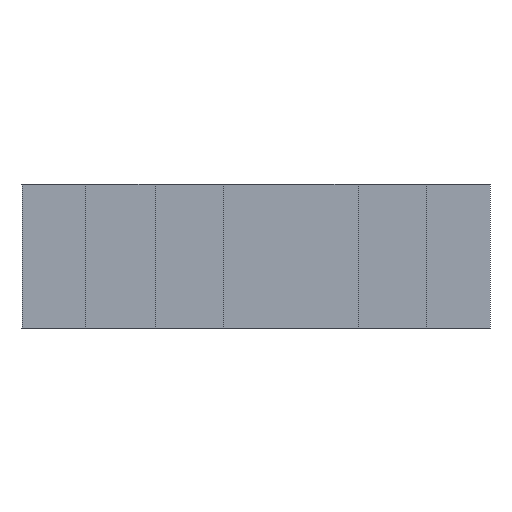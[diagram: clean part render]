
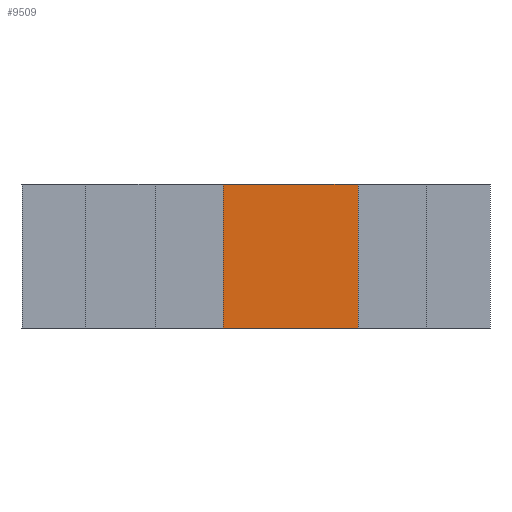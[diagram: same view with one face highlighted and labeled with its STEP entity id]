
A CAD part, left-side view. The second image highlights one B-rep face of the part: STEP entity #9509.
In plain terms, the highlighted planar face has unit normal (-1, 0, 0).
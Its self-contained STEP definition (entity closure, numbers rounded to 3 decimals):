
#9439 = PLANE('',#9440);
#9440 = AXIS2_PLACEMENT_3D('',#9441,#9442,#9443);
#9441 = CARTESIAN_POINT('',(-3790.,3210.,0.));
#9442 = DIRECTION('',(-1.,0.,0.));
#9443 = DIRECTION('',(0.,-1.,0.));
#9454 = VERTEX_POINT('',#9455);
#9455 = CARTESIAN_POINT('',(-3790.,805.,1720.));
#9471 = VERTEX_POINT('',#9472);
#9472 = CARTESIAN_POINT('',(-3790.,805.,0.));
#9486 = EDGE_CURVE('',#9454,#9471,#9487,.T.);
#9487 = SURFACE_CURVE('',#9488,(#9492,#9498),.PCURVE_S1.);
#9488 = LINE('',#9489,#9490);
#9489 = CARTESIAN_POINT('',(-3790.,805.,0.));
#9490 = VECTOR('',#9491,1.);
#9491 = DIRECTION('',(0.,0.,-1.));
#9492 = PCURVE('',#9439,#9493);
#9493 = DEFINITIONAL_REPRESENTATION('',(#9494),#9497);
#9494 = B_SPLINE_CURVE_WITH_KNOTS('',1,(#9495,#9496),.UNSPECIFIED.,.F.,
  .F.,(2,2),(-1892.,172.),.PIECEWISE_BEZIER_KNOTS.);
#9495 = CARTESIAN_POINT('',(2405.,1892.));
#9496 = CARTESIAN_POINT('',(2405.,-172.));
#9497 = ( GEOMETRIC_REPRESENTATION_CONTEXT(2) 
PARAMETRIC_REPRESENTATION_CONTEXT() REPRESENTATION_CONTEXT('2D SPACE',''
  ) );
#9498 = PCURVE('',#9499,#9504);
#9499 = PLANE('',#9500);
#9500 = AXIS2_PLACEMENT_3D('',#9501,#9502,#9503);
#9501 = CARTESIAN_POINT('',(-3790.,3210.,0.));
#9502 = DIRECTION('',(-1.,0.,0.));
#9503 = DIRECTION('',(0.,-1.,0.));
#9504 = DEFINITIONAL_REPRESENTATION('',(#9505),#9508);
#9505 = B_SPLINE_CURVE_WITH_KNOTS('',1,(#9506,#9507),.UNSPECIFIED.,.F.,
  .F.,(2,2),(-1892.,172.),.PIECEWISE_BEZIER_KNOTS.);
#9506 = CARTESIAN_POINT('',(2405.,1892.));
#9507 = CARTESIAN_POINT('',(2405.,-172.));
#9508 = ( GEOMETRIC_REPRESENTATION_CONTEXT(2) 
PARAMETRIC_REPRESENTATION_CONTEXT() REPRESENTATION_CONTEXT('2D SPACE',''
  ) );
#9509 = ADVANCED_FACE('',(#9510),#9499,.T.);
#9510 = FACE_BOUND('',#9511,.T.);
#9511 = EDGE_LOOP('',(#9512,#9528,#9529,#9545));
#9512 = ORIENTED_EDGE('',*,*,#9513,.F.);
#9513 = EDGE_CURVE('',#9454,#9514,#9516,.T.);
#9514 = VERTEX_POINT('',#9515);
#9515 = CARTESIAN_POINT('',(-3790.,-805.,1720.));
#9516 = SURFACE_CURVE('',#9517,(#9521),.PCURVE_S1.);
#9517 = LINE('',#9518,#9519);
#9518 = CARTESIAN_POINT('',(-3790.,3210.,1720.));
#9519 = VECTOR('',#9520,1.);
#9520 = DIRECTION('',(0.,-1.,0.));
#9521 = PCURVE('',#9499,#9522);
#9522 = DEFINITIONAL_REPRESENTATION('',(#9523),#9527);
#9523 = LINE('',#9524,#9525);
#9524 = CARTESIAN_POINT('',(0.,1720.));
#9525 = VECTOR('',#9526,1.);
#9526 = DIRECTION('',(1.,0.));
#9527 = ( GEOMETRIC_REPRESENTATION_CONTEXT(2) 
PARAMETRIC_REPRESENTATION_CONTEXT() REPRESENTATION_CONTEXT('2D SPACE',''
  ) );
#9528 = ORIENTED_EDGE('',*,*,#9486,.T.);
#9529 = ORIENTED_EDGE('',*,*,#9530,.T.);
#9530 = EDGE_CURVE('',#9471,#9531,#9533,.T.);
#9531 = VERTEX_POINT('',#9532);
#9532 = CARTESIAN_POINT('',(-3790.,-805.,0.));
#9533 = SURFACE_CURVE('',#9534,(#9538),.PCURVE_S1.);
#9534 = LINE('',#9535,#9536);
#9535 = CARTESIAN_POINT('',(-3790.,3210.,0.));
#9536 = VECTOR('',#9537,1.);
#9537 = DIRECTION('',(0.,-1.,0.));
#9538 = PCURVE('',#9499,#9539);
#9539 = DEFINITIONAL_REPRESENTATION('',(#9540),#9544);
#9540 = LINE('',#9541,#9542);
#9541 = CARTESIAN_POINT('',(0.,0.));
#9542 = VECTOR('',#9543,1.);
#9543 = DIRECTION('',(1.,0.));
#9544 = ( GEOMETRIC_REPRESENTATION_CONTEXT(2) 
PARAMETRIC_REPRESENTATION_CONTEXT() REPRESENTATION_CONTEXT('2D SPACE',''
  ) );
#9545 = ORIENTED_EDGE('',*,*,#9546,.F.);
#9546 = EDGE_CURVE('',#9514,#9531,#9547,.T.);
#9547 = SURFACE_CURVE('',#9548,(#9552,#9558),.PCURVE_S1.);
#9548 = LINE('',#9549,#9550);
#9549 = CARTESIAN_POINT('',(-3790.,-805.,0.));
#9550 = VECTOR('',#9551,1.);
#9551 = DIRECTION('',(0.,0.,-1.));
#9552 = PCURVE('',#9499,#9553);
#9553 = DEFINITIONAL_REPRESENTATION('',(#9554),#9557);
#9554 = B_SPLINE_CURVE_WITH_KNOTS('',1,(#9555,#9556),.UNSPECIFIED.,.F.,
  .F.,(2,2),(-1892.,172.),.PIECEWISE_BEZIER_KNOTS.);
#9555 = CARTESIAN_POINT('',(4015.,1892.));
#9556 = CARTESIAN_POINT('',(4015.,-172.));
#9557 = ( GEOMETRIC_REPRESENTATION_CONTEXT(2) 
PARAMETRIC_REPRESENTATION_CONTEXT() REPRESENTATION_CONTEXT('2D SPACE',''
  ) );
#9558 = PCURVE('',#9559,#9564);
#9559 = PLANE('',#9560);
#9560 = AXIS2_PLACEMENT_3D('',#9561,#9562,#9563);
#9561 = CARTESIAN_POINT('',(-3790.,3210.,0.));
#9562 = DIRECTION('',(-1.,0.,0.));
#9563 = DIRECTION('',(0.,-1.,0.));
#9564 = DEFINITIONAL_REPRESENTATION('',(#9565),#9568);
#9565 = B_SPLINE_CURVE_WITH_KNOTS('',1,(#9566,#9567),.UNSPECIFIED.,.F.,
  .F.,(2,2),(-1892.,172.),.PIECEWISE_BEZIER_KNOTS.);
#9566 = CARTESIAN_POINT('',(4015.,1892.));
#9567 = CARTESIAN_POINT('',(4015.,-172.));
#9568 = ( GEOMETRIC_REPRESENTATION_CONTEXT(2) 
PARAMETRIC_REPRESENTATION_CONTEXT() REPRESENTATION_CONTEXT('2D SPACE',''
  ) );
